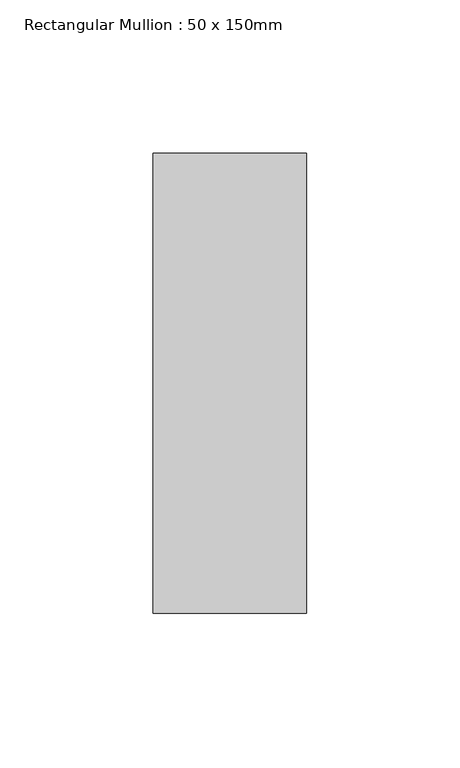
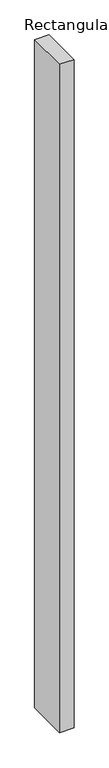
"""IFC4 building model written with IfcOpenShell, lengths in millimetres: member geometry, Rectangular Mullion : 50 x 150mm."""

import ifcopenshell
import ifcopenshell.guid

model = None  # the IFC model being written
_history = None  # IfcOwnerHistory: only IFC2X3 demands one
_inside = {}  # id of a spatial element -> (the spatial element, [elements in it])
_under = {}  # id of a project, library or spatial element -> (it, [spatial elements below it])
_declared = {}  # id of a project -> (the project, [libraries it declares])
_typed = {}  # id of a type object -> (the type object, [elements of that type])
_made_of = {}  # id of a material, layer set ... -> (it, [elements and type objects made of it])


def new_model(schema):
    """Start an empty IFC model of exactly this schema.

    Asked for "IFC4X3", IfcOpenShell would pick the latest addendum, in which some entities
    have other attributes; the version numbers below select the first issue.
    IFC2X3 requires an IfcOwnerHistory on every rooted entity: one is made here for all.
    """
    global model, _history
    if schema == "IFC4X3":
        model = ifcopenshell.file(schema_version=(4, 3, 0, 0))
    else:
        model = ifcopenshell.file(schema=schema)
    _inside.clear()
    _under.clear()
    _declared.clear()
    _typed.clear()
    _made_of.clear()
    _history = None
    if model.schema == "IFC2X3":
        org = make("IfcOrganization", Name="unknown")
        user = make(
            "IfcPersonAndOrganization",
            ThePerson=make("IfcPerson", FamilyName="unknown"),
            TheOrganization=org,
        )
        app = make(
            "IfcApplication",
            ApplicationDeveloper=org,
            Version="unknown",
            ApplicationFullName="unknown",
            ApplicationIdentifier="unknown",
        )
        _history = make(
            "IfcOwnerHistory",
            OwningUser=user,
            OwningApplication=app,
            ChangeAction="ADDED",
            CreationDate=0,
        )
    return model


def make(cls, **values):
    """One entity of the class cls with the attributes given. An attribute that is None is left unset."""
    return model.create_entity(
        cls, **{name: value for name, value in values.items() if value is not None}
    )


def rooted(cls, **values):
    """An entity with a GlobalId (a new one), such as an element, a storey or a relation."""
    return make(cls, GlobalId=ifcopenshell.guid.new(), OwnerHistory=_history, **values)


def si_unit(unit_type, name, prefix=None):
    """IfcSIUnit, for example si_unit("LENGTHUNIT", "METRE", prefix="MILLI")."""
    return make("IfcSIUnit", UnitType=unit_type, Prefix=prefix, Name=name)


def assignment(units):
    """IfcUnitAssignment: the units of a project."""
    return None if units is None else make("IfcUnitAssignment", Units=units)


def point(xyz):
    """IfcCartesianPoint."""
    return None if xyz is None else make("IfcCartesianPoint", Coordinates=xyz)


def direction(xyz):
    """IfcDirection."""
    return None if xyz is None else make("IfcDirection", DirectionRatios=xyz)


def frame(location, z_axis=None, x_axis=None):
    """IfcAxis2Placement3D, a coordinate frame: its origin and axes. An axis left out is left unset."""
    return make(
        "IfcAxis2Placement3D",
        Location=point(location),
        Axis=direction(z_axis),
        RefDirection=direction(x_axis),
    )


def origin():
    """The frame at (0, 0, 0) with its axes left unset."""
    return frame((0.0, 0.0, 0.0))


def place(relative_to, where):
    """IfcLocalPlacement: puts the frame where relative to a parent placement (None: the world)."""
    return make(
        "IfcLocalPlacement", PlacementRelTo=relative_to, RelativePlacement=where
    )


def context(
    kind, dimensions, precision=None, world=None, true_north=None, identifier=None
):
    """IfcGeometricRepresentationContext, for example the 3D "Model" context."""
    return make(
        "IfcGeometricRepresentationContext",
        ContextIdentifier=identifier,
        ContextType=kind,
        CoordinateSpaceDimension=dimensions,
        Precision=precision,
        WorldCoordinateSystem=world,
        TrueNorth=true_north,
    )


def project(units=None, contexts=None):
    """IfcProject with its units and contexts."""
    return rooted(
        "IfcProject",
        Name="project",
        RepresentationContexts=contexts,
        UnitsInContext=assignment(units),
    )


def spatial(cls, under=None, at=None, **own):
    """A site, building, storey or space (cls), placed at a placement, below another one or the project."""
    s = rooted(cls, ObjectPlacement=at, **own)
    if under is not None:
        _under.setdefault(under.id(), (under, []))[1].append(s)
    return s


def polyline(points):
    """IfcPolyline through the points."""
    return make("IfcPolyline", Points=[point(p) for p in points])


def outline(outer, holes=None, kind="AREA"):
    """IfcArbitraryClosedProfileDef: a profile drawn as a closed curve; with holes, ...WithVoids."""
    if holes is None:
        return make("IfcArbitraryClosedProfileDef", ProfileType=kind, OuterCurve=outer)
    return make(
        "IfcArbitraryProfileDefWithVoids",
        ProfileType=kind,
        OuterCurve=outer,
        InnerCurves=holes,
    )


def extrude(swept, where, along, depth):
    """IfcExtrudedAreaSolid: the profile swept, set in the frame where, extruded along a direction by depth."""
    return make(
        "IfcExtrudedAreaSolid",
        SweptArea=swept,
        Position=where,
        ExtrudedDirection=direction(along),
        Depth=depth,
    )


def shape(context_of_items, identifier, shape_type, items):
    """IfcShapeRepresentation: the items that make up one representation, for example the "Body"."""
    return make(
        "IfcShapeRepresentation",
        ContextOfItems=context_of_items,
        RepresentationIdentifier=identifier,
        RepresentationType=shape_type,
        Items=items,
    )


def source(mapping_origin, context_of_items, identifier, shape_type, items):
    """IfcRepresentationMap: a shape defined once, which mapped items show again and again."""
    return make(
        "IfcRepresentationMap",
        MappingOrigin=mapping_origin,
        MappedRepresentation=shape(context_of_items, identifier, shape_type, items),
    )


def transform(
    local_origin,
    x_axis=None,
    y_axis=None,
    z_axis=None,
    scale=None,
    scale2=None,
    scale3=None,
    uniform=True,
):
    """IfcCartesianTransformationOperator3D, or its non-uniform kind. x_axis, y_axis, z_axis: its Axis1, 2, 3."""
    if uniform:
        return make(
            "IfcCartesianTransformationOperator3D",
            Axis1=direction(x_axis),
            Axis2=direction(y_axis),
            LocalOrigin=point(local_origin),
            Scale=scale,
            Axis3=direction(z_axis),
        )
    return make(
        "IfcCartesianTransformationOperator3DnonUniform",
        Axis1=direction(x_axis),
        Axis2=direction(y_axis),
        LocalOrigin=point(local_origin),
        Scale=scale,
        Axis3=direction(z_axis),
        Scale2=scale2,
        Scale3=scale3,
    )


def mapped(mapping_source, mapping_target):
    """IfcMappedItem: shows the shape of a source again, moved by a transform."""
    return make(
        "IfcMappedItem", MappingSource=mapping_source, MappingTarget=mapping_target
    )


def made_of(thing, what):
    """Note that an element or type object is made of a material, layer set ...; save() writes the relation."""
    if what is not None:
        _made_of.setdefault(what.id(), (what, []))[1].append(thing)
    return thing


def element(
    cls,
    number,
    at=None,
    inside=None,
    cuts=None,
    type_object=None,
    material=None,
    context=None,
    identifier="Body",
    shape_type=None,
    held_by="IfcProductDefinitionShape",
    body=None,
    shapes=None,
    **own,
):
    """One element of the class cls, such as IfcWall. Its Tag is "e" and its number.

    at: its placement. inside: the storey or other place that contains it. cuts: it is an
    opening in that element (IfcRelVoidsElement). A single representation is given by context,
    identifier, shape_type and body (its items); several are given by shapes. held_by: the class
    of the entity that holds the representations. save() writes the other relations.
    """
    e = rooted(cls, Tag="e%d" % number, ObjectPlacement=at, **own)
    if body is not None:
        shapes = [shape(context, identifier, shape_type, body)]
    if shapes is not None:
        e.Representation = make(held_by, Representations=shapes)
    if inside is not None:
        _inside.setdefault(inside.id(), (inside, []))[1].append(e)
    if cuts is not None:
        rooted(
            "IfcRelVoidsElement", RelatingBuildingElement=cuts, RelatedOpeningElement=e
        )
    if type_object is not None:
        _typed.setdefault(type_object.id(), (type_object, []))[1].append(e)
    return made_of(e, material)


def aggregate(whole, parts):
    """IfcRelAggregates: a whole, such as a stair, and the parts it consists of."""
    return rooted("IfcRelAggregates", RelatingObject=whole, RelatedObjects=parts)


def save(model, path):
    """Write the relations noted so far, then the file.

    IfcRelAggregates (storeys below a building ...), IfcRelContainedInSpatialStructure (elements
    in a storey), IfcRelDefinesByType, IfcRelAssociatesMaterial and IfcRelDeclares: one each for
    every whole, place, type object, material and project.
    """
    for whole, parts in _under.values():
        aggregate(whole, parts)
    for where, things in _inside.values():
        rooted(
            "IfcRelContainedInSpatialStructure",
            RelatedElements=things,
            RelatingStructure=where,
        )
    for kind, things in _typed.values():
        rooted("IfcRelDefinesByType", RelatedObjects=things, RelatingType=kind)
    for what, things in _made_of.values():
        rooted("IfcRelAssociatesMaterial", RelatedObjects=things, RelatingMaterial=what)
    for by, libraries in _declared.values():
        rooted("IfcRelDeclares", RelatingContext=by, RelatedDefinitions=libraries)
    model.write(path)


def rectangular_mullion_50_x_150mm_08e6ab05(model_context):
    return source(origin(), model_context, "Body", "SweptSolid", [
        extrude(outline(polyline([(0.0, 75.0), (0.0, -75.0), (-50.0, -75.0), (-50.0, 75.0), (0.0, 75.0)])), frame((0.0, 0.0, -2460.3898235), z_axis=(0.0, 0.0, 1.0), x_axis=(1.0, 0.0, 0.0)), (0.0, 0.0, 1.0), 2460.3898235),
    ])


if __name__ == "__main__":
    model = new_model("IFC4")
    model_context = context("Model", 3, world=origin())
    ifc_project = project(units=[si_unit("LENGTHUNIT", "METRE", prefix="MILLI")], contexts=[model_context])
    site = spatial("IfcSite", under=ifc_project)
    building = spatial("IfcBuilding", under=site)
    placement = place(None, origin())
    rectangular_mullion_50_x_150mm_shape = rectangular_mullion_50_x_150mm_08e6ab05(model_context)
    element("IfcMember", 1, ObjectType="Rectangular Mullion : 50 x 150mm", at=placement, inside=building, context=model_context, shape_type="MappedRepresentation", body=[
        mapped(rectangular_mullion_50_x_150mm_shape, transform((0.0, 0.0, 0.0), x_axis=(1.0, 0.0, 0.0), y_axis=(0.0, 1.0, 0.0), z_axis=(0.0, 0.0, 1.0))),
    ])
    save(model, "model.ifc")
